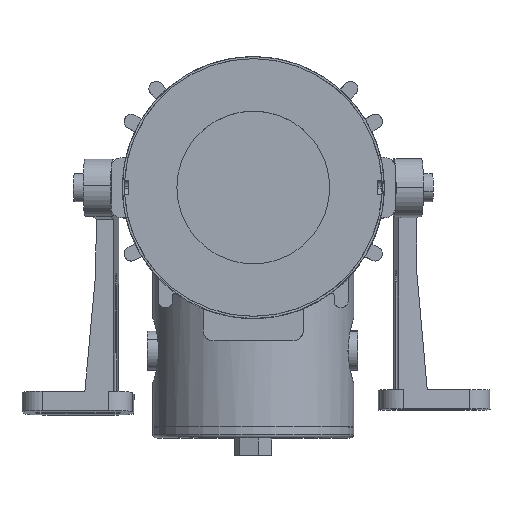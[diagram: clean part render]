
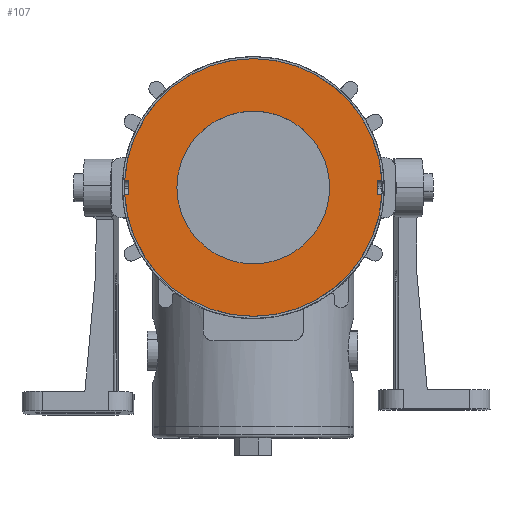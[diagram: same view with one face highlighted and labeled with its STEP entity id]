
A CAD part, top view. The second image highlights one B-rep face of the part: STEP entity #107.
In plain terms, the highlighted planar face has unit normal (0, 0, 1) as drawn and (0, -1, 0) by its records, which use the part's own axes.
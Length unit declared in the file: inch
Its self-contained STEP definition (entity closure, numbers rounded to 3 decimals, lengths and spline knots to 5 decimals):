
#93 = VERTEX_POINT ( 'NONE', #12152 ) ;
#94 = ORIENTED_EDGE ( 'NONE', *, *, #366, .T. ) ;
#97 = ORIENTED_EDGE ( 'NONE', *, *, #104, .F. ) ;
#104 = EDGE_CURVE ( 'NONE', #161, #372, #12211, .T. ) ;
#107 = ADVANCED_FACE ( 'NONE', ( #12194, #12189 ), #12188, .F. ) ;
#109 = EDGE_LOOP ( 'NONE', ( #143, #314 ) ) ;
#117 = EDGE_CURVE ( 'NONE', #323, #447, #12225, .T. ) ;
#118 = EDGE_CURVE ( 'NONE', #93, #119, #12221, .T. ) ;
#119 = VERTEX_POINT ( 'NONE', #12217 ) ;
#120 = ORIENTED_EDGE ( 'NONE', *, *, #367, .F. ) ;
#121 = ORIENTED_EDGE ( 'NONE', *, *, #118, .F. ) ;
#124 = ORIENTED_EDGE ( 'NONE', *, *, #128, .F. ) ;
#128 = EDGE_CURVE ( 'NONE', #131, #424, #12275, .T. ) ;
#131 = VERTEX_POINT ( 'NONE', #12271 ) ;
#133 = EDGE_CURVE ( 'NONE', #119, #161, #12265, .T. ) ;
#134 = VERTEX_POINT ( 'NONE', #12261 ) ;
#137 = ORIENTED_EDGE ( 'NONE', *, *, #133, .F. ) ;
#139 = ORIENTED_EDGE ( 'NONE', *, *, #117, .T. ) ;
#141 = ORIENTED_EDGE ( 'NONE', *, *, #429, .F. ) ;
#143 = ORIENTED_EDGE ( 'NONE', *, *, #419, .T. ) ;
#144 = EDGE_LOOP ( 'NONE', ( #141, #124, #329, #139, #120, #97, #137, #121, #94, #168 ) ) ;
#147 = EDGE_CURVE ( 'NONE', #323, #131, #12313, .T. ) ;
#161 = VERTEX_POINT ( 'NONE', #12344 ) ;
#168 = ORIENTED_EDGE ( 'NONE', *, *, #321, .F. ) ;
#314 = ORIENTED_EDGE ( 'NONE', *, *, #428, .T. ) ;
#321 = EDGE_CURVE ( 'NONE', #433, #134, #12569, .T. ) ;
#323 = VERTEX_POINT ( 'NONE', #12626 ) ;
#329 = ORIENTED_EDGE ( 'NONE', *, *, #147, .F. ) ;
#366 = EDGE_CURVE ( 'NONE', #93, #134, #12677, .T. ) ;
#367 = EDGE_CURVE ( 'NONE', #372, #447, #12671, .T. ) ;
#372 = VERTEX_POINT ( 'NONE', #12706 ) ;
#415 = VERTEX_POINT ( 'NONE', #12808 ) ;
#419 = EDGE_CURVE ( 'NONE', #415, #423, #12802, .T. ) ;
#423 = VERTEX_POINT ( 'NONE', #12792 ) ;
#424 = VERTEX_POINT ( 'NONE', #12791 ) ;
#428 = EDGE_CURVE ( 'NONE', #423, #415, #12843, .T. ) ;
#429 = EDGE_CURVE ( 'NONE', #424, #433, #12839, .T. ) ;
#433 = VERTEX_POINT ( 'NONE', #12824 ) ;
#447 = VERTEX_POINT ( 'NONE', #12861 ) ;
#12152 = CARTESIAN_POINT ( 'NONE',  ( -2.24707, 0., -0.12931 ) ) ;
#12184 = DIRECTION ( 'NONE',  ( 0., 0., 1. ) ) ;
#12185 = DIRECTION ( 'NONE',  ( 0., 1., 0. ) ) ;
#12186 = CARTESIAN_POINT ( 'NONE',  ( 0., 0., 0. ) ) ;
#12187 = AXIS2_PLACEMENT_3D ( 'NONE', #12186, #12185, #12184 ) ;
#12188 = PLANE ( 'NONE',  #12187 ) ;
#12189 = FACE_OUTER_BOUND ( 'NONE', #144, .T. ) ;
#12190 = DIRECTION ( 'NONE',  ( 0., 0., 1. ) ) ;
#12191 = DIRECTION ( 'NONE',  ( 0., 1., 0. ) ) ;
#12192 = CARTESIAN_POINT ( 'NONE',  ( 0., 0., 0. ) ) ;
#12193 = AXIS2_PLACEMENT_3D ( 'NONE', #12192, #12191, #12190 ) ;
#12194 = FACE_BOUND ( 'NONE', #109, .T. ) ;
#12211 = CIRCLE ( 'NONE', #12193, 2.32283 ) ;
#12217 = CARTESIAN_POINT ( 'NONE',  ( -2.24707, 0., 0.12931 ) ) ;
#12218 = DIRECTION ( 'NONE',  ( 0., 0., 1. ) ) ;
#12219 = VECTOR ( 'NONE', #12218, 39.37008 ) ;
#12220 = CARTESIAN_POINT ( 'NONE',  ( -2.24707, 0., 0.12931 ) ) ;
#12221 = LINE ( 'NONE', #12220, #12219 ) ;
#12222 = DIRECTION ( 'NONE',  ( 1., 0., 0. ) ) ;
#12223 = VECTOR ( 'NONE', #12222, 39.37008 ) ;
#12224 = CARTESIAN_POINT ( 'NONE',  ( 0., 0., 0.12931 ) ) ;
#12225 = LINE ( 'NONE', #12224, #12223 ) ;
#12261 = CARTESIAN_POINT ( 'NONE',  ( -2.31923, 0., -0.12931 ) ) ;
#12262 = DIRECTION ( 'NONE',  ( -1., 0., 0. ) ) ;
#12263 = VECTOR ( 'NONE', #12262, 39.37008 ) ;
#12264 = CARTESIAN_POINT ( 'NONE',  ( -2.48392, 0., 0.12931 ) ) ;
#12265 = LINE ( 'NONE', #12264, #12263 ) ;
#12271 = CARTESIAN_POINT ( 'NONE',  ( 2.24707, 0., -0.12931 ) ) ;
#12272 = DIRECTION ( 'NONE',  ( 1., 0., 0. ) ) ;
#12273 = VECTOR ( 'NONE', #12272, 39.37008 ) ;
#12274 = CARTESIAN_POINT ( 'NONE',  ( 2.48392, 0., -0.12931 ) ) ;
#12275 = LINE ( 'NONE', #12274, #12273 ) ;
#12310 = DIRECTION ( 'NONE',  ( 0., 0., -1. ) ) ;
#12311 = VECTOR ( 'NONE', #12310, 39.37008 ) ;
#12312 = CARTESIAN_POINT ( 'NONE',  ( 2.24707, 0., 0.12931 ) ) ;
#12313 = LINE ( 'NONE', #12312, #12311 ) ;
#12344 = CARTESIAN_POINT ( 'NONE',  ( -2.31923, 0., 0.12931 ) ) ;
#12567 = DIRECTION ( 'NONE',  ( 0., 1., 0. ) ) ;
#12568 = AXIS2_PLACEMENT_3D ( 'NONE', #12573, #12567, #12628 ) ;
#12569 = CIRCLE ( 'NONE', #12568, 2.32283 ) ;
#12573 = CARTESIAN_POINT ( 'NONE',  ( 0., 0., 0. ) ) ;
#12626 = CARTESIAN_POINT ( 'NONE',  ( 2.24707, 0., 0.12931 ) ) ;
#12628 = DIRECTION ( 'NONE',  ( 0., 0., 1. ) ) ;
#12671 = CIRCLE ( 'NONE', #12714, 2.32283 ) ;
#12672 = DIRECTION ( 'NONE',  ( -1., 0., 0. ) ) ;
#12673 = VECTOR ( 'NONE', #12672, 39.37008 ) ;
#12674 = CARTESIAN_POINT ( 'NONE',  ( 0., 0., -0.12931 ) ) ;
#12677 = LINE ( 'NONE', #12674, #12673 ) ;
#12706 = CARTESIAN_POINT ( 'NONE',  ( 0., 0., 2.32283 ) ) ;
#12711 = DIRECTION ( 'NONE',  ( 0., 0., 1. ) ) ;
#12712 = DIRECTION ( 'NONE',  ( 0., 1., 0. ) ) ;
#12713 = CARTESIAN_POINT ( 'NONE',  ( 0., 0., 0. ) ) ;
#12714 = AXIS2_PLACEMENT_3D ( 'NONE', #12713, #12712, #12711 ) ;
#12791 = CARTESIAN_POINT ( 'NONE',  ( 2.31923, 0., -0.12931 ) ) ;
#12792 = CARTESIAN_POINT ( 'NONE',  ( 0., 0., -1.37795 ) ) ;
#12798 = DIRECTION ( 'NONE',  ( 0., 0., 1. ) ) ;
#12799 = DIRECTION ( 'NONE',  ( 0., 1., 0. ) ) ;
#12800 = CARTESIAN_POINT ( 'NONE',  ( 0., 0., 0. ) ) ;
#12801 = AXIS2_PLACEMENT_3D ( 'NONE', #12800, #12799, #12798 ) ;
#12802 = CIRCLE ( 'NONE', #12801, 1.37795 ) ;
#12808 = CARTESIAN_POINT ( 'NONE',  ( 0., 0., 1.37795 ) ) ;
#12824 = CARTESIAN_POINT ( 'NONE',  ( 0., 0., -2.32283 ) ) ;
#12835 = DIRECTION ( 'NONE',  ( 0., 0., 1. ) ) ;
#12836 = DIRECTION ( 'NONE',  ( 0., 1., 0. ) ) ;
#12837 = CARTESIAN_POINT ( 'NONE',  ( 0., 0., 0. ) ) ;
#12838 = AXIS2_PLACEMENT_3D ( 'NONE', #12837, #12836, #12835 ) ;
#12839 = CIRCLE ( 'NONE', #12838, 2.32283 ) ;
#12840 = DIRECTION ( 'NONE',  ( 0., 0., 1. ) ) ;
#12841 = DIRECTION ( 'NONE',  ( 0., 1., 0. ) ) ;
#12842 = AXIS2_PLACEMENT_3D ( 'NONE', #12848, #12841, #12840 ) ;
#12843 = CIRCLE ( 'NONE', #12842, 1.37795 ) ;
#12848 = CARTESIAN_POINT ( 'NONE',  ( 0., 0., 0. ) ) ;
#12861 = CARTESIAN_POINT ( 'NONE',  ( 2.31923, 0., 0.12931 ) ) ;
